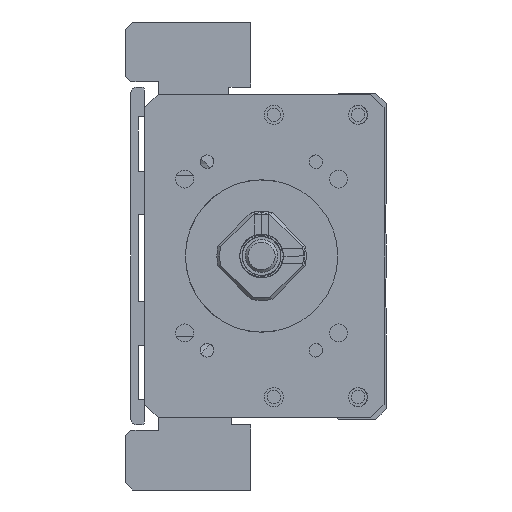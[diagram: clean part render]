
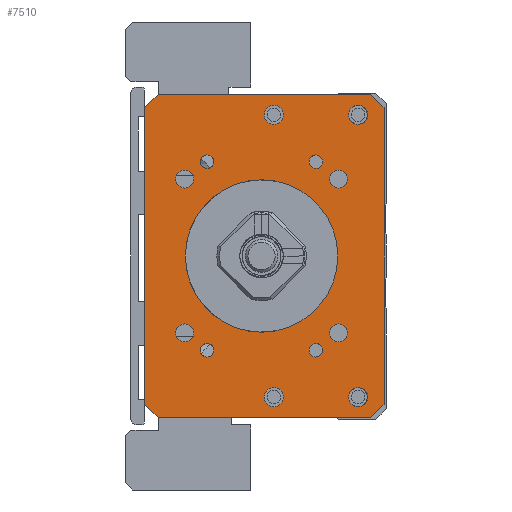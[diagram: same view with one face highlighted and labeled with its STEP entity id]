
A CAD part, left-side view. The second image highlights one B-rep face of the part: STEP entity #7510.
In plain terms, the highlighted planar face has unit normal (-1, 0, 0).
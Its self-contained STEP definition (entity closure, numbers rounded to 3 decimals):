
#4990=LINE('',#24173,#5961);
#4992=LINE('',#24197,#5963);
#4993=LINE('',#24199,#5964);
#4994=LINE('',#24201,#5965);
#4995=LINE('',#24203,#5966);
#4996=LINE('',#24205,#5967);
#4997=LINE('',#24207,#5968);
#4998=LINE('',#24209,#5969);
#5961=VECTOR('',#19849,1.);
#5963=VECTOR('',#19873,1.);
#5964=VECTOR('',#19874,1.);
#5965=VECTOR('',#19875,1.);
#5966=VECTOR('',#19876,1.);
#5967=VECTOR('',#19877,1.);
#5968=VECTOR('',#19878,1.);
#5969=VECTOR('',#19879,1.);
#6830=FACE_BOUND('',#9408,.T.);
#6831=FACE_BOUND('',#9409,.T.);
#6832=FACE_BOUND('',#9410,.T.);
#6833=FACE_BOUND('',#9411,.T.);
#6834=FACE_BOUND('',#9412,.T.);
#6835=FACE_BOUND('',#9413,.T.);
#6836=FACE_BOUND('',#9414,.T.);
#6837=FACE_BOUND('',#9415,.T.);
#6838=FACE_BOUND('',#9416,.T.);
#6839=FACE_BOUND('',#9417,.T.);
#6840=FACE_BOUND('',#9418,.T.);
#6841=FACE_BOUND('',#9419,.T.);
#6842=FACE_BOUND('',#9420,.T.);
#6843=FACE_BOUND('',#9421,.T.);
#7510=ADVANCED_FACE('',(#6830,#6831,#6832,#6833,#6834,#6835,#6836,#6837,
#6838,#6839,#6840,#6841,#6842,#6843),#8063,.F.);
#8063=PLANE('',#17077);
#9408=EDGE_LOOP('',(#11952));
#9409=EDGE_LOOP('',(#11953));
#9410=EDGE_LOOP('',(#11954));
#9411=EDGE_LOOP('',(#11955));
#9412=EDGE_LOOP('',(#11956));
#9413=EDGE_LOOP('',(#11957));
#9414=EDGE_LOOP('',(#11958));
#9415=EDGE_LOOP('',(#11959));
#9416=EDGE_LOOP('',(#11960));
#9417=EDGE_LOOP('',(#11961,#11962,#11963,#11964,#11965,#11966,#11967,#11968));
#9418=EDGE_LOOP('',(#11969));
#9419=EDGE_LOOP('',(#11970));
#9420=EDGE_LOOP('',(#11971));
#9421=EDGE_LOOP('',(#11972));
#11952=ORIENTED_EDGE('',*,*,#15263,.F.);
#11953=ORIENTED_EDGE('',*,*,#15264,.F.);
#11954=ORIENTED_EDGE('',*,*,#15265,.F.);
#11955=ORIENTED_EDGE('',*,*,#15266,.F.);
#11956=ORIENTED_EDGE('',*,*,#15267,.F.);
#11957=ORIENTED_EDGE('',*,*,#15268,.T.);
#11958=ORIENTED_EDGE('',*,*,#15269,.F.);
#11959=ORIENTED_EDGE('',*,*,#15270,.F.);
#11960=ORIENTED_EDGE('',*,*,#15271,.F.);
#11961=ORIENTED_EDGE('',*,*,#15260,.T.);
#11962=ORIENTED_EDGE('',*,*,#15272,.T.);
#11963=ORIENTED_EDGE('',*,*,#15273,.F.);
#11964=ORIENTED_EDGE('',*,*,#15274,.T.);
#11965=ORIENTED_EDGE('',*,*,#15275,.F.);
#11966=ORIENTED_EDGE('',*,*,#15276,.T.);
#11967=ORIENTED_EDGE('',*,*,#15277,.T.);
#11968=ORIENTED_EDGE('',*,*,#15278,.T.);
#11969=ORIENTED_EDGE('',*,*,#15279,.F.);
#11970=ORIENTED_EDGE('',*,*,#15280,.F.);
#11971=ORIENTED_EDGE('',*,*,#15281,.F.);
#11972=ORIENTED_EDGE('',*,*,#15240,.F.);
#13772=VERTEX_POINT('',#24112);
#13792=VERTEX_POINT('',#24172);
#13793=VERTEX_POINT('',#24174);
#13795=VERTEX_POINT('',#24180);
#13796=VERTEX_POINT('',#24182);
#13797=VERTEX_POINT('',#24184);
#13798=VERTEX_POINT('',#24186);
#13799=VERTEX_POINT('',#24188);
#13800=VERTEX_POINT('',#24190);
#13801=VERTEX_POINT('',#24192);
#13802=VERTEX_POINT('',#24194);
#13803=VERTEX_POINT('',#24196);
#13804=VERTEX_POINT('',#24198);
#13805=VERTEX_POINT('',#24200);
#13806=VERTEX_POINT('',#24202);
#13807=VERTEX_POINT('',#24204);
#13808=VERTEX_POINT('',#24206);
#13809=VERTEX_POINT('',#24208);
#13810=VERTEX_POINT('',#24211);
#13811=VERTEX_POINT('',#24213);
#13812=VERTEX_POINT('',#24215);
#15240=EDGE_CURVE('',#13772,#13772,#16060,.T.);
#15260=EDGE_CURVE('',#13793,#13792,#4990,.T.);
#15263=EDGE_CURVE('',#13795,#13795,#16069,.T.);
#15264=EDGE_CURVE('',#13796,#13796,#16070,.T.);
#15265=EDGE_CURVE('',#13797,#13797,#16071,.T.);
#15266=EDGE_CURVE('',#13798,#13798,#16072,.T.);
#15267=EDGE_CURVE('',#13799,#13799,#16073,.T.);
#15268=EDGE_CURVE('',#13800,#13800,#16074,.T.);
#15269=EDGE_CURVE('',#13801,#13801,#16075,.T.);
#15270=EDGE_CURVE('',#13802,#13802,#16076,.T.);
#15271=EDGE_CURVE('',#13803,#13803,#16077,.T.);
#15272=EDGE_CURVE('',#13792,#13804,#4992,.T.);
#15273=EDGE_CURVE('',#13805,#13804,#4993,.T.);
#15274=EDGE_CURVE('',#13805,#13806,#4994,.T.);
#15275=EDGE_CURVE('',#13807,#13806,#4995,.T.);
#15276=EDGE_CURVE('',#13807,#13808,#4996,.T.);
#15277=EDGE_CURVE('',#13808,#13809,#4997,.T.);
#15278=EDGE_CURVE('',#13809,#13793,#4998,.T.);
#15279=EDGE_CURVE('',#13810,#13810,#16078,.T.);
#15280=EDGE_CURVE('',#13811,#13811,#16079,.T.);
#15281=EDGE_CURVE('',#13812,#13812,#16080,.T.);
#16060=CIRCLE('',#17054,14.);
#16069=CIRCLE('',#17065,1.65);
#16070=CIRCLE('',#17066,1.65);
#16071=CIRCLE('',#17067,1.65);
#16072=CIRCLE('',#17068,1.65);
#16073=CIRCLE('',#17069,1.25);
#16074=CIRCLE('',#17070,1.75);
#16075=CIRCLE('',#17071,1.25);
#16076=CIRCLE('',#17072,1.75);
#16077=CIRCLE('',#17073,1.25);
#16078=CIRCLE('',#17074,1.75);
#16079=CIRCLE('',#17075,1.75);
#16080=CIRCLE('',#17076,1.25);
#17054=AXIS2_PLACEMENT_3D('',#24111,#19823,#19824);
#17065=AXIS2_PLACEMENT_3D('',#24179,#19855,#19856);
#17066=AXIS2_PLACEMENT_3D('',#24181,#19857,#19858);
#17067=AXIS2_PLACEMENT_3D('',#24183,#19859,#19860);
#17068=AXIS2_PLACEMENT_3D('',#24185,#19861,#19862);
#17069=AXIS2_PLACEMENT_3D('',#24187,#19863,#19864);
#17070=AXIS2_PLACEMENT_3D('',#24189,#19865,#19866);
#17071=AXIS2_PLACEMENT_3D('',#24191,#19867,#19868);
#17072=AXIS2_PLACEMENT_3D('',#24193,#19869,#19870);
#17073=AXIS2_PLACEMENT_3D('',#24195,#19871,#19872);
#17074=AXIS2_PLACEMENT_3D('',#24210,#19880,#19881);
#17075=AXIS2_PLACEMENT_3D('',#24212,#19882,#19883);
#17076=AXIS2_PLACEMENT_3D('',#24214,#19884,#19885);
#17077=AXIS2_PLACEMENT_3D('',#24216,#19886,#19887);
#19823=DIRECTION('',(-1.,0.,0.));
#19824=DIRECTION('',(0.,1.,0.));
#19849=DIRECTION('',(0.,0.,-1.));
#19855=DIRECTION('',(-1.,0.,0.));
#19856=DIRECTION('',(0.,0.,1.));
#19857=DIRECTION('',(-1.,0.,0.));
#19858=DIRECTION('',(0.,0.,1.));
#19859=DIRECTION('',(-1.,0.,0.));
#19860=DIRECTION('',(0.,0.,1.));
#19861=DIRECTION('',(-1.,0.,0.));
#19862=DIRECTION('',(0.,0.,1.));
#19863=DIRECTION('',(-1.,0.,0.));
#19864=DIRECTION('',(0.,1.,0.));
#19865=DIRECTION('',(1.,0.,0.));
#19866=DIRECTION('',(0.,0.,1.));
#19867=DIRECTION('',(-1.,0.,0.));
#19868=DIRECTION('',(0.,1.,0.));
#19869=DIRECTION('',(-1.,0.,0.));
#19870=DIRECTION('',(0.,0.,1.));
#19871=DIRECTION('',(-1.,0.,0.));
#19872=DIRECTION('',(0.,1.,0.));
#19873=DIRECTION('',(0.,-0.707,-0.707));
#19874=DIRECTION('',(0.,1.,0.));
#19875=DIRECTION('',(0.,-0.707,0.707));
#19876=DIRECTION('',(0.,0.,-1.));
#19877=DIRECTION('',(0.,0.707,0.707));
#19878=DIRECTION('',(0.,1.,0.));
#19879=DIRECTION('',(0.,0.707,-0.707));
#19880=DIRECTION('',(-1.,0.,0.));
#19881=DIRECTION('',(0.,0.,1.));
#19882=DIRECTION('',(-1.,0.,0.));
#19883=DIRECTION('',(0.,0.,1.));
#19884=DIRECTION('',(-1.,0.,0.));
#19885=DIRECTION('',(0.,1.,0.));
#19886=DIRECTION('',(1.,0.,0.));
#19887=DIRECTION('',(0.,1.,0.));
#24111=CARTESIAN_POINT('',(-211.,0.,0.));
#24112=CARTESIAN_POINT('',(-211.,14.,0.));
#24172=CARTESIAN_POINT('',(-211.,21.499,-27.25));
#24173=CARTESIAN_POINT('',(-211.,21.499,29.75));
#24174=CARTESIAN_POINT('',(-211.,21.499,27.25));
#24179=CARTESIAN_POINT('',(-211.,14.142,14.142));
#24180=CARTESIAN_POINT('',(-211.,14.142,15.792));
#24181=CARTESIAN_POINT('',(-211.,-14.142,14.142));
#24182=CARTESIAN_POINT('',(-211.,-14.142,15.792));
#24183=CARTESIAN_POINT('',(-211.,14.142,-14.142));
#24184=CARTESIAN_POINT('',(-211.,14.142,-12.492));
#24185=CARTESIAN_POINT('',(-211.,-14.142,-14.142));
#24186=CARTESIAN_POINT('',(-211.,-14.142,-12.492));
#24187=CARTESIAN_POINT('',(-211.,-10.,-17.321));
#24188=CARTESIAN_POINT('',(-211.,-8.75,-17.321));
#24189=CARTESIAN_POINT('',(-211.,-2.25,-25.936));
#24190=CARTESIAN_POINT('',(-211.,-2.25,-24.186));
#24191=CARTESIAN_POINT('',(-211.,10.,17.321));
#24192=CARTESIAN_POINT('',(-211.,11.25,17.321));
#24193=CARTESIAN_POINT('',(-211.,-2.25,25.936));
#24194=CARTESIAN_POINT('',(-211.,-2.25,27.686));
#24195=CARTESIAN_POINT('',(-211.,10.,-17.321));
#24196=CARTESIAN_POINT('',(-211.,11.25,-17.321));
#24197=CARTESIAN_POINT('',(-211.,18.999,-29.75));
#24198=CARTESIAN_POINT('',(-211.,18.999,-29.75));
#24199=CARTESIAN_POINT('',(-211.,-22.501,-29.75));
#24200=CARTESIAN_POINT('',(-211.,-20.001,-29.75));
#24201=CARTESIAN_POINT('',(-211.,-22.501,-27.25));
#24202=CARTESIAN_POINT('',(-211.,-22.501,-27.25));
#24203=CARTESIAN_POINT('',(-211.,-22.501,29.75));
#24204=CARTESIAN_POINT('',(-211.,-22.501,27.25));
#24205=CARTESIAN_POINT('',(-211.,-22.501,27.25));
#24206=CARTESIAN_POINT('',(-211.,-20.001,29.75));
#24207=CARTESIAN_POINT('',(-211.,-22.501,29.75));
#24208=CARTESIAN_POINT('',(-211.,18.999,29.75));
#24209=CARTESIAN_POINT('',(-211.,18.999,29.75));
#24210=CARTESIAN_POINT('',(-211.,-17.75,25.936));
#24211=CARTESIAN_POINT('',(-211.,-17.75,27.686));
#24212=CARTESIAN_POINT('',(-211.,-17.75,-25.936));
#24213=CARTESIAN_POINT('',(-211.,-17.75,-24.186));
#24214=CARTESIAN_POINT('',(-211.,-10.,17.321));
#24215=CARTESIAN_POINT('',(-211.,-8.75,17.321));
#24216=CARTESIAN_POINT('',(-211.,-22.501,29.75));
